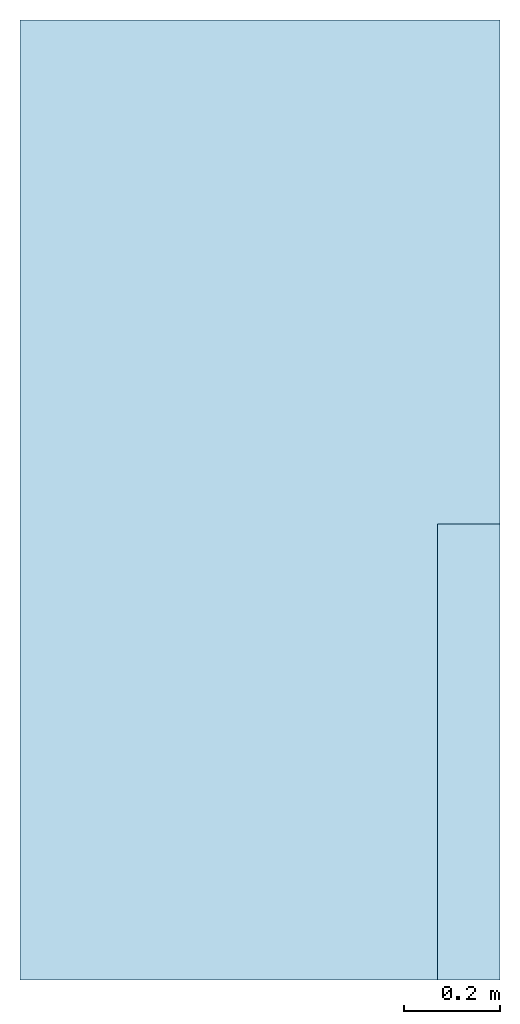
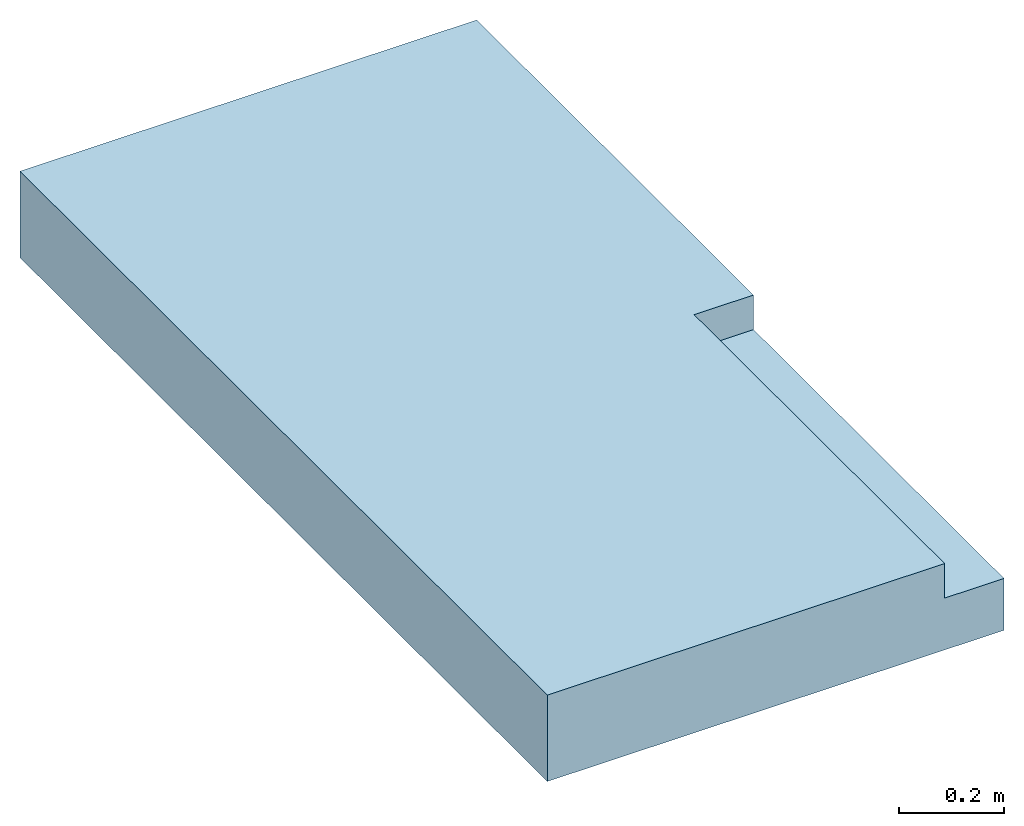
# One storey: 1 slab.
"""IFC4 building model written with IfcOpenShell, lengths in metres."""

from ifc_helpers import new_model, entity, si_unit, converted_unit, derived_unit, frame, origin, place, context, subcontext, project, spatial, faceted_brep, element, save


model = new_model("IFC4")

# Units and contexts
model_context = context("Model", 3, precision=1e-05, world=origin())
body_context = subcontext(model_context, "Body", "Model", "MODEL_VIEW")
ifc_project = project(units=[si_unit("LENGTHUNIT", "METRE"), si_unit("AREAUNIT", "SQUARE_METRE"), si_unit("VOLUMEUNIT", "CUBIC_METRE"), si_unit("MASSUNIT", "GRAM", prefix="KILO"), converted_unit("PLANEANGLEUNIT", "DEGREE", entity("IfcPlaneAngleMeasure", 0.0174532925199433), si_unit("PLANEANGLEUNIT", "RADIAN"), dimensions=[0, 0, 0, 0, 0, 0, 0]), derived_unit("THERMALTRANSMITTANCEUNIT", [(si_unit("POWERUNIT", "WATT"), 1), (si_unit("THERMODYNAMICTEMPERATUREUNIT", "KELVIN"), -1), (si_unit("LENGTHUNIT", "METRE"), -2)]), derived_unit("VOLUMETRICFLOWRATEUNIT", [(si_unit("LENGTHUNIT", "METRE"), 3), (converted_unit("TIMEUNIT", "hour", entity("IfcTimeMeasure", 3600.0), si_unit("TIMEUNIT", "SECOND"), dimensions=[0, 0, 1, 0, 0, 0, 0]), -1), (si_unit("LENGTHUNIT", "METRE"), -1)])], contexts=[model_context])

# Site, building, storey
site_placement = place(None, origin())
site = spatial("IfcSite", under=ifc_project, at=site_placement, Name="Liegenschaft", CompositionType="ELEMENT")
building_placement = place(site_placement, origin())
building = spatial("IfcBuilding", under=site, at=building_placement, Name="Gebäude", CompositionType="ELEMENT")
storey_placement = place(building_placement, origin())
storey = spatial("IfcBuildingStorey", under=building, at=storey_placement, Name="Geschoss 01", CompositionType="ELEMENT", Elevation=0.0)

# Slab
slab_placement = place(storey_placement, frame((119.176730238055, -1.05532871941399, -0.2)))
element("IfcSlab", 1, at=slab_placement, inside=storey, PredefinedType="NOTDEFINED", context=body_context, shape_type="Brep", body=[
    faceted_brep([(0.0, 0.0, 0.0), (0.0, 2.0, 0.0), (0.0, 2.0, 0.2), (0.0, 0.0, 0.2), (1.0, 2.0, 0.0), (1.0, 2.0, 0.2), (1.0, 0.0, 0.0), (0.87, 0.0, 0.12), (1.0, 0.0, 0.12), (0.87, 0.0, 0.2), (0.87, 0.95, 0.12), (1.0, 0.95, 0.12), (0.87, 0.95, 0.2), (1.0, 0.95, 0.2)], [[[0, 1, 2, 3]], [[1, 4, 5, 2]], [[4, 1, 0, 6]], [[7, 8, 6, 0, 3, 9]], [[7, 10, 11, 8]], [[9, 12, 10, 7]], [[12, 9, 3, 2, 5, 13]], [[5, 4, 6, 8, 11, 13]], [[10, 12, 13, 11]]], orient=[[False], [False], [False], [False], [False], [False], [False], [False], [False]]),
])

save(model, "model.ifc")
